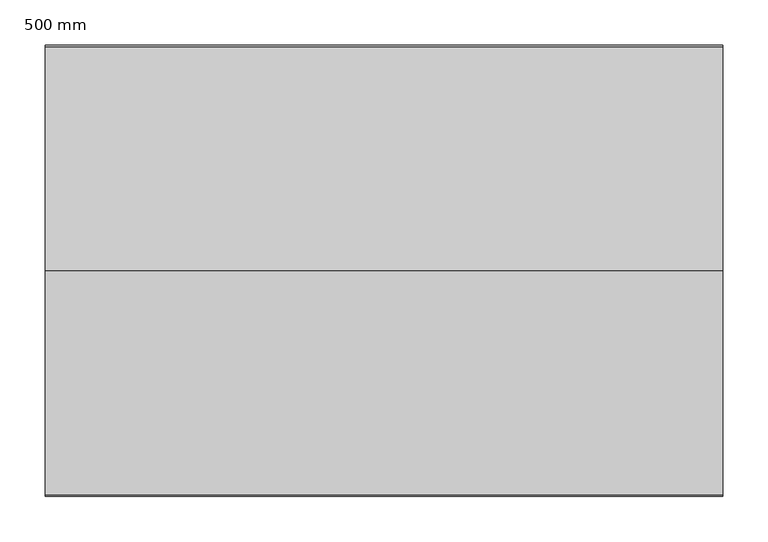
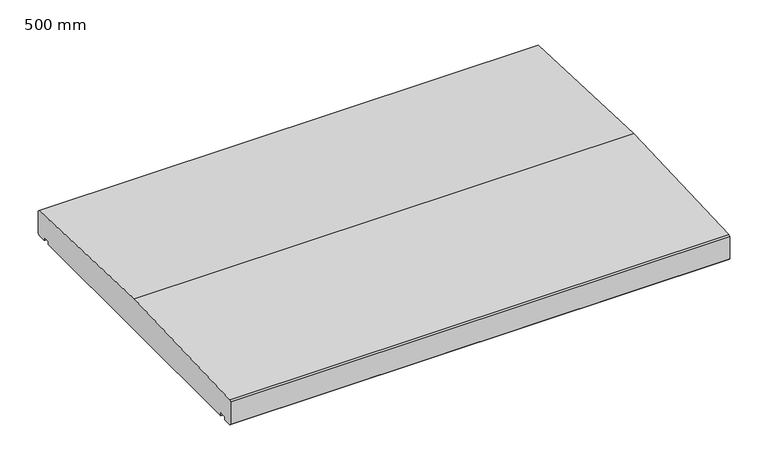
"""IFC4 building model written with IfcOpenShell, lengths in millimetres: proxy geometry, 400_35_NS_afdekker_tweezijdig_afwaterend : 500 mm."""

import ifcopenshell
import ifcopenshell.guid

model = None  # the IFC model being written
_history = None  # IfcOwnerHistory: only IFC2X3 demands one
_inside = {}  # id of a spatial element -> (the spatial element, [elements in it])
_under = {}  # id of a project, library or spatial element -> (it, [spatial elements below it])
_declared = {}  # id of a project -> (the project, [libraries it declares])
_typed = {}  # id of a type object -> (the type object, [elements of that type])
_made_of = {}  # id of a material, layer set ... -> (it, [elements and type objects made of it])


def new_model(schema):
    """Start an empty IFC model of exactly this schema.

    Asked for "IFC4X3", IfcOpenShell would pick the latest addendum, in which some entities
    have other attributes; the version numbers below select the first issue.
    IFC2X3 requires an IfcOwnerHistory on every rooted entity: one is made here for all.
    """
    global model, _history
    if schema == "IFC4X3":
        model = ifcopenshell.file(schema_version=(4, 3, 0, 0))
    else:
        model = ifcopenshell.file(schema=schema)
    _inside.clear()
    _under.clear()
    _declared.clear()
    _typed.clear()
    _made_of.clear()
    _history = None
    if model.schema == "IFC2X3":
        org = make("IfcOrganization", Name="unknown")
        user = make(
            "IfcPersonAndOrganization",
            ThePerson=make("IfcPerson", FamilyName="unknown"),
            TheOrganization=org,
        )
        app = make(
            "IfcApplication",
            ApplicationDeveloper=org,
            Version="unknown",
            ApplicationFullName="unknown",
            ApplicationIdentifier="unknown",
        )
        _history = make(
            "IfcOwnerHistory",
            OwningUser=user,
            OwningApplication=app,
            ChangeAction="ADDED",
            CreationDate=0,
        )
    return model


def make(cls, **values):
    """One entity of the class cls with the attributes given. An attribute that is None is left unset."""
    return model.create_entity(
        cls, **{name: value for name, value in values.items() if value is not None}
    )


def rooted(cls, **values):
    """An entity with a GlobalId (a new one), such as an element, a storey or a relation."""
    return make(cls, GlobalId=ifcopenshell.guid.new(), OwnerHistory=_history, **values)


def si_unit(unit_type, name, prefix=None):
    """IfcSIUnit, for example si_unit("LENGTHUNIT", "METRE", prefix="MILLI")."""
    return make("IfcSIUnit", UnitType=unit_type, Prefix=prefix, Name=name)


def assignment(units):
    """IfcUnitAssignment: the units of a project."""
    return None if units is None else make("IfcUnitAssignment", Units=units)


def point(xyz):
    """IfcCartesianPoint."""
    return None if xyz is None else make("IfcCartesianPoint", Coordinates=xyz)


def direction(xyz):
    """IfcDirection."""
    return None if xyz is None else make("IfcDirection", DirectionRatios=xyz)


def frame(location, z_axis=None, x_axis=None):
    """IfcAxis2Placement3D, a coordinate frame: its origin and axes. An axis left out is left unset."""
    return make(
        "IfcAxis2Placement3D",
        Location=point(location),
        Axis=direction(z_axis),
        RefDirection=direction(x_axis),
    )


def origin():
    """The frame at (0, 0, 0) with its axes left unset."""
    return frame((0.0, 0.0, 0.0))


def place(relative_to, where):
    """IfcLocalPlacement: puts the frame where relative to a parent placement (None: the world)."""
    return make(
        "IfcLocalPlacement", PlacementRelTo=relative_to, RelativePlacement=where
    )


def context(
    kind, dimensions, precision=None, world=None, true_north=None, identifier=None
):
    """IfcGeometricRepresentationContext, for example the 3D "Model" context."""
    return make(
        "IfcGeometricRepresentationContext",
        ContextIdentifier=identifier,
        ContextType=kind,
        CoordinateSpaceDimension=dimensions,
        Precision=precision,
        WorldCoordinateSystem=world,
        TrueNorth=true_north,
    )


def project(units=None, contexts=None):
    """IfcProject with its units and contexts."""
    return rooted(
        "IfcProject",
        Name="project",
        RepresentationContexts=contexts,
        UnitsInContext=assignment(units),
    )


def spatial(cls, under=None, at=None, **own):
    """A site, building, storey or space (cls), placed at a placement, below another one or the project."""
    s = rooted(cls, ObjectPlacement=at, **own)
    if under is not None:
        _under.setdefault(under.id(), (under, []))[1].append(s)
    return s


def polyline(points):
    """IfcPolyline through the points."""
    return make("IfcPolyline", Points=[point(p) for p in points])


def outline(outer, holes=None, kind="AREA"):
    """IfcArbitraryClosedProfileDef: a profile drawn as a closed curve; with holes, ...WithVoids."""
    if holes is None:
        return make("IfcArbitraryClosedProfileDef", ProfileType=kind, OuterCurve=outer)
    return make(
        "IfcArbitraryProfileDefWithVoids",
        ProfileType=kind,
        OuterCurve=outer,
        InnerCurves=holes,
    )


def extrude(swept, where, along, depth):
    """IfcExtrudedAreaSolid: the profile swept, set in the frame where, extruded along a direction by depth."""
    return make(
        "IfcExtrudedAreaSolid",
        SweptArea=swept,
        Position=where,
        ExtrudedDirection=direction(along),
        Depth=depth,
    )


def shape(context_of_items, identifier, shape_type, items):
    """IfcShapeRepresentation: the items that make up one representation, for example the "Body"."""
    return make(
        "IfcShapeRepresentation",
        ContextOfItems=context_of_items,
        RepresentationIdentifier=identifier,
        RepresentationType=shape_type,
        Items=items,
    )


def source(mapping_origin, context_of_items, identifier, shape_type, items):
    """IfcRepresentationMap: a shape defined once, which mapped items show again and again."""
    return make(
        "IfcRepresentationMap",
        MappingOrigin=mapping_origin,
        MappedRepresentation=shape(context_of_items, identifier, shape_type, items),
    )


def transform(
    local_origin,
    x_axis=None,
    y_axis=None,
    z_axis=None,
    scale=None,
    scale2=None,
    scale3=None,
    uniform=True,
):
    """IfcCartesianTransformationOperator3D, or its non-uniform kind. x_axis, y_axis, z_axis: its Axis1, 2, 3."""
    if uniform:
        return make(
            "IfcCartesianTransformationOperator3D",
            Axis1=direction(x_axis),
            Axis2=direction(y_axis),
            LocalOrigin=point(local_origin),
            Scale=scale,
            Axis3=direction(z_axis),
        )
    return make(
        "IfcCartesianTransformationOperator3DnonUniform",
        Axis1=direction(x_axis),
        Axis2=direction(y_axis),
        LocalOrigin=point(local_origin),
        Scale=scale,
        Axis3=direction(z_axis),
        Scale2=scale2,
        Scale3=scale3,
    )


def mapped(mapping_source, mapping_target):
    """IfcMappedItem: shows the shape of a source again, moved by a transform."""
    return make(
        "IfcMappedItem", MappingSource=mapping_source, MappingTarget=mapping_target
    )


def made_of(thing, what):
    """Note that an element or type object is made of a material, layer set ...; save() writes the relation."""
    if what is not None:
        _made_of.setdefault(what.id(), (what, []))[1].append(thing)
    return thing


def element(
    cls,
    number,
    at=None,
    inside=None,
    cuts=None,
    type_object=None,
    material=None,
    context=None,
    identifier="Body",
    shape_type=None,
    held_by="IfcProductDefinitionShape",
    body=None,
    shapes=None,
    **own,
):
    """One element of the class cls, such as IfcWall. Its Tag is "e" and its number.

    at: its placement. inside: the storey or other place that contains it. cuts: it is an
    opening in that element (IfcRelVoidsElement). A single representation is given by context,
    identifier, shape_type and body (its items); several are given by shapes. held_by: the class
    of the entity that holds the representations. save() writes the other relations.
    """
    e = rooted(cls, Tag="e%d" % number, ObjectPlacement=at, **own)
    if body is not None:
        shapes = [shape(context, identifier, shape_type, body)]
    if shapes is not None:
        e.Representation = make(held_by, Representations=shapes)
    if inside is not None:
        _inside.setdefault(inside.id(), (inside, []))[1].append(e)
    if cuts is not None:
        rooted(
            "IfcRelVoidsElement", RelatingBuildingElement=cuts, RelatedOpeningElement=e
        )
    if type_object is not None:
        _typed.setdefault(type_object.id(), (type_object, []))[1].append(e)
    return made_of(e, material)


def aggregate(whole, parts):
    """IfcRelAggregates: a whole, such as a stair, and the parts it consists of."""
    return rooted("IfcRelAggregates", RelatingObject=whole, RelatedObjects=parts)


def save(model, path):
    """Write the relations noted so far, then the file.

    IfcRelAggregates (storeys below a building ...), IfcRelContainedInSpatialStructure (elements
    in a storey), IfcRelDefinesByType, IfcRelAssociatesMaterial and IfcRelDeclares: one each for
    every whole, place, type object, material and project.
    """
    for whole, parts in _under.values():
        aggregate(whole, parts)
    for where, things in _inside.values():
        rooted(
            "IfcRelContainedInSpatialStructure",
            RelatedElements=things,
            RelatingStructure=where,
        )
    for kind, things in _typed.values():
        rooted("IfcRelDefinesByType", RelatedObjects=things, RelatingType=kind)
    for what, things in _made_of.values():
        rooted("IfcRelAssociatesMaterial", RelatedObjects=things, RelatingMaterial=what)
    for by, libraries in _declared.values():
        rooted("IfcRelDeclares", RelatingContext=by, RelatedDefinitions=libraries)
    model.write(path)


def proxy_500_mm_bfa50c96(model_context):
    return source(origin(), model_context, "Body", "SweptSolid", [
        extrude(outline(polyline([(500.0, 2.0), (498.0, 0.0), (485.0, 0.0), (485.0, 5.0), (475.0, 5.0), (475.0, 0.0), (25.0, 0.0), (25.0, 5.0), (15.0, 5.0), (15.0, 0.0), (2.0, 0.0), (0.0, 2.0), (0.0, 38.0), (2.0, 40.0), (250.0, 50.0), (498.0, 40.0), (500.0, 38.0), (500.0, 2.0)])), frame((-375.0, 0.0, 0.0), z_axis=(1.0, 0.0, 0.0), x_axis=(0.0, 1.0, 0.0)), (0.0, 0.0, 1.0), 750.0),
    ])


if __name__ == "__main__":
    model = new_model("IFC4")
    model_context = context("Model", 3, world=origin())
    ifc_project = project(units=[si_unit("LENGTHUNIT", "METRE", prefix="MILLI")], contexts=[model_context])
    site = spatial("IfcSite", under=ifc_project)
    building = spatial("IfcBuilding", under=site)
    placement = place(None, origin())
    proxy_500_mm_shape = proxy_500_mm_bfa50c96(model_context)
    element("IfcBuildingElementProxy", 1, Name="400_35_NS_afdekker_tweezijdig_afwaterend : 500 mm", ObjectType="400_35_NS_afdekker_tweezijdig_afwaterend : 500 mm", at=placement, inside=building, context=model_context, shape_type="MappedRepresentation", body=[
        mapped(proxy_500_mm_shape, transform((0.0, 0.0, 0.0), x_axis=(1.0, 0.0, 0.0), y_axis=(0.0, 1.0, 0.0), z_axis=(0.0, 0.0, 1.0))),
    ])
    save(model, "model.ifc")
